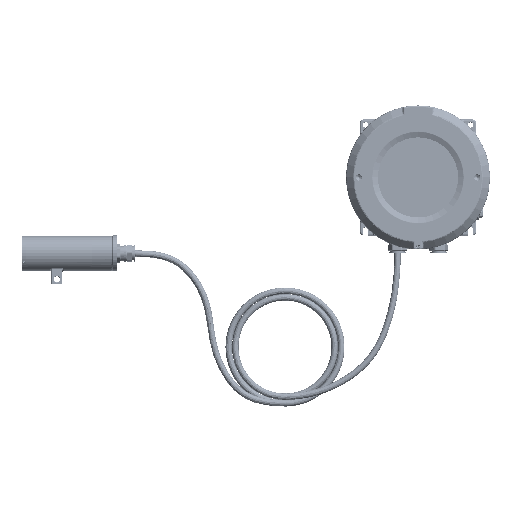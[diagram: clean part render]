
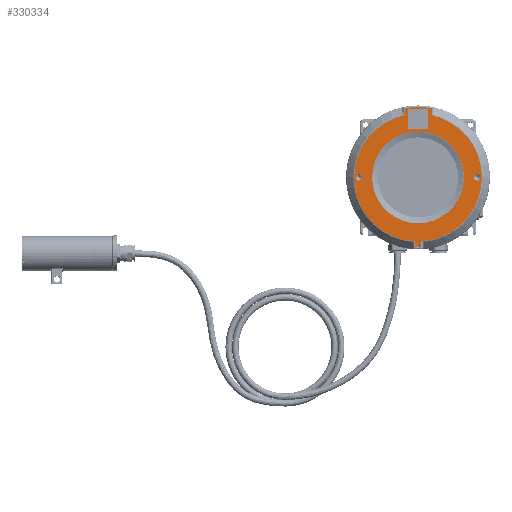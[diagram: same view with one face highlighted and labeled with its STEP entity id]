
A CAD part, front view. The second image highlights one B-rep face of the part: STEP entity #330334.
In plain terms, the highlighted planar face has unit normal (0, -1, 0) as drawn and (-1, 0, 0) by its records, which use the part's own axes.
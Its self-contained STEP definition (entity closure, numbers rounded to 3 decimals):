
#3358=FACE_BOUND('',#56930,.T.);
#3359=FACE_BOUND('',#56931,.T.);
#3360=FACE_BOUND('',#56932,.T.);
#3361=FACE_BOUND('',#56933,.T.);
#16100=PLANE('',#351888);
#28770=CIRCLE('',#351889,94.);
#28771=CIRCLE('',#351890,2.6);
#28772=CIRCLE('',#351891,94.);
#28773=CIRCLE('',#351892,85.172);
#28774=CIRCLE('',#351893,94.);
#28775=CIRCLE('',#351894,85.172);
#28776=CIRCLE('',#351895,61.314);
#28777=CIRCLE('',#351896,61.314);
#28778=CIRCLE('',#351897,4.15);
#28779=CIRCLE('',#351898,4.15);
#28780=CIRCLE('',#351899,4.15);
#28781=CIRCLE('',#351900,4.15);
#38158=FACE_OUTER_BOUND('',#56929,.T.);
#56929=EDGE_LOOP('',(#243626,#243627,#243628,#243629,#243630,#243631,#243632,
#243633,#243634,#243635));
#56930=EDGE_LOOP('',(#243636,#243637));
#56931=EDGE_LOOP('',(#243638,#243639));
#56932=EDGE_LOOP('',(#243640,#243641));
#56933=EDGE_LOOP('',(#243642,#243643,#243644,#243645));
#77508=LINE('',#518394,#113545);
#77509=LINE('',#518398,#113546);
#77512=LINE('',#518406,#113549);
#77514=LINE('',#518410,#113551);
#77520=LINE('',#518430,#113557);
#77521=LINE('',#518434,#113558);
#77522=LINE('',#518438,#113559);
#77523=LINE('',#518441,#113560);
#113545=VECTOR('',#385768,10.);
#113546=VECTOR('',#385773,10.);
#113549=VECTOR('',#385780,10.);
#113551=VECTOR('',#385786,10.);
#113557=VECTOR('',#385804,8.84);
#113558=VECTOR('',#385807,9.013);
#113559=VECTOR('',#385810,9.013);
#113560=VECTOR('',#385813,8.84);
#150876=VERTEX_POINT('',#518391);
#150877=VERTEX_POINT('',#518393);
#150878=VERTEX_POINT('',#518397);
#150881=VERTEX_POINT('',#518405);
#150885=VERTEX_POINT('',#518422);
#150886=VERTEX_POINT('',#518423);
#150887=VERTEX_POINT('',#518425);
#150888=VERTEX_POINT('',#518427);
#150889=VERTEX_POINT('',#518429);
#150890=VERTEX_POINT('',#518431);
#150891=VERTEX_POINT('',#518433);
#150892=VERTEX_POINT('',#518435);
#150893=VERTEX_POINT('',#518437);
#150894=VERTEX_POINT('',#518439);
#150895=VERTEX_POINT('',#518442);
#150896=VERTEX_POINT('',#518443);
#150897=VERTEX_POINT('',#518446);
#150898=VERTEX_POINT('',#518447);
#150899=VERTEX_POINT('',#518450);
#150900=VERTEX_POINT('',#518451);
#185693=EDGE_CURVE('',#150876,#150877,#77508,.T.);
#185695=EDGE_CURVE('',#150877,#150878,#77509,.T.);
#185699=EDGE_CURVE('',#150878,#150881,#77512,.T.);
#185702=EDGE_CURVE('',#150881,#150876,#77514,.T.);
#185708=EDGE_CURVE('',#150885,#150886,#28770,.T.);
#185709=EDGE_CURVE('',#150886,#150887,#28771,.T.);
#185710=EDGE_CURVE('',#150887,#150888,#28772,.T.);
#185711=EDGE_CURVE('',#150888,#150889,#77520,.T.);
#185712=EDGE_CURVE('',#150889,#150890,#28773,.T.);
#185713=EDGE_CURVE('',#150890,#150891,#77521,.T.);
#185714=EDGE_CURVE('',#150891,#150892,#28774,.T.);
#185715=EDGE_CURVE('',#150892,#150893,#77522,.T.);
#185716=EDGE_CURVE('',#150893,#150894,#28775,.T.);
#185717=EDGE_CURVE('',#150894,#150885,#77523,.T.);
#185718=EDGE_CURVE('',#150895,#150896,#28776,.T.);
#185719=EDGE_CURVE('',#150896,#150895,#28777,.T.);
#185720=EDGE_CURVE('',#150897,#150898,#28778,.T.);
#185721=EDGE_CURVE('',#150898,#150897,#28779,.T.);
#185722=EDGE_CURVE('',#150899,#150900,#28780,.T.);
#185723=EDGE_CURVE('',#150900,#150899,#28781,.T.);
#243626=ORIENTED_EDGE('',*,*,#185708,.T.);
#243627=ORIENTED_EDGE('',*,*,#185709,.T.);
#243628=ORIENTED_EDGE('',*,*,#185710,.T.);
#243629=ORIENTED_EDGE('',*,*,#185711,.T.);
#243630=ORIENTED_EDGE('',*,*,#185712,.T.);
#243631=ORIENTED_EDGE('',*,*,#185713,.T.);
#243632=ORIENTED_EDGE('',*,*,#185714,.T.);
#243633=ORIENTED_EDGE('',*,*,#185715,.T.);
#243634=ORIENTED_EDGE('',*,*,#185716,.T.);
#243635=ORIENTED_EDGE('',*,*,#185717,.T.);
#243636=ORIENTED_EDGE('',*,*,#185718,.T.);
#243637=ORIENTED_EDGE('',*,*,#185719,.T.);
#243638=ORIENTED_EDGE('',*,*,#185720,.T.);
#243639=ORIENTED_EDGE('',*,*,#185721,.T.);
#243640=ORIENTED_EDGE('',*,*,#185722,.T.);
#243641=ORIENTED_EDGE('',*,*,#185723,.T.);
#243642=ORIENTED_EDGE('',*,*,#185693,.F.);
#243643=ORIENTED_EDGE('',*,*,#185702,.F.);
#243644=ORIENTED_EDGE('',*,*,#185699,.F.);
#243645=ORIENTED_EDGE('',*,*,#185695,.F.);
#330334=ADVANCED_FACE('',(#38158,#3358,#3359,#3360,#3361),#16100,.F.);
#351888=AXIS2_PLACEMENT_3D('',#518421,#385796,#385797);
#351889=AXIS2_PLACEMENT_3D('',#518424,#385798,#385799);
#351890=AXIS2_PLACEMENT_3D('',#518426,#385800,#385801);
#351891=AXIS2_PLACEMENT_3D('',#518428,#385802,#385803);
#351892=AXIS2_PLACEMENT_3D('',#518432,#385805,#385806);
#351893=AXIS2_PLACEMENT_3D('',#518436,#385808,#385809);
#351894=AXIS2_PLACEMENT_3D('',#518440,#385811,#385812);
#351895=AXIS2_PLACEMENT_3D('',#518444,#385814,#385815);
#351896=AXIS2_PLACEMENT_3D('',#518445,#385816,#385817);
#351897=AXIS2_PLACEMENT_3D('',#518448,#385818,#385819);
#351898=AXIS2_PLACEMENT_3D('',#518449,#385820,#385821);
#351899=AXIS2_PLACEMENT_3D('',#518452,#385822,#385823);
#351900=AXIS2_PLACEMENT_3D('',#518453,#385824,#385825);
#385768=DIRECTION('',(0.,1.,0.));
#385773=DIRECTION('',(0.,0.,-1.));
#385780=DIRECTION('',(0.,-1.,0.));
#385786=DIRECTION('',(0.,0.,1.));
#385796=DIRECTION('center_axis',(1.,0.,0.));
#385797=DIRECTION('ref_axis',(0.,0.,-1.));
#385798=DIRECTION('center_axis',(-1.,0.,0.));
#385799=DIRECTION('ref_axis',(0.,0.,-1.));
#385800=DIRECTION('center_axis',(1.,0.,0.));
#385801=DIRECTION('ref_axis',(0.,0.,-1.));
#385802=DIRECTION('center_axis',(-1.,0.,0.));
#385803=DIRECTION('ref_axis',(0.,0.,-1.));
#385804=DIRECTION('',(0.,1.,0.));
#385805=DIRECTION('center_axis',(-1.,0.,0.));
#385806=DIRECTION('ref_axis',(0.,0.,-1.));
#385807=DIRECTION('',(0.,1.,0.));
#385808=DIRECTION('center_axis',(-1.,0.,0.));
#385809=DIRECTION('ref_axis',(0.,0.,-1.));
#385810=DIRECTION('',(0.,-1.,0.));
#385811=DIRECTION('center_axis',(-1.,0.,0.));
#385812=DIRECTION('ref_axis',(0.,0.,-1.));
#385813=DIRECTION('',(0.,-1.,0.));
#385814=DIRECTION('center_axis',(1.,0.,0.));
#385815=DIRECTION('ref_axis',(0.,0.,-1.));
#385816=DIRECTION('center_axis',(1.,0.,0.));
#385817=DIRECTION('ref_axis',(0.,0.,-1.));
#385818=DIRECTION('center_axis',(1.,0.,0.));
#385819=DIRECTION('ref_axis',(0.,0.,-1.));
#385820=DIRECTION('center_axis',(1.,0.,0.));
#385821=DIRECTION('ref_axis',(0.,0.,-1.));
#385822=DIRECTION('center_axis',(1.,0.,0.));
#385823=DIRECTION('ref_axis',(0.,0.,-1.));
#385824=DIRECTION('center_axis',(1.,0.,0.));
#385825=DIRECTION('ref_axis',(0.,0.,-1.));
#518391=CARTESIAN_POINT('',(0.,64.9,13.35));
#518393=CARTESIAN_POINT('',(0.,91.6,13.35));
#518394=CARTESIAN_POINT('',(0.,76.213,13.35));
#518397=CARTESIAN_POINT('',(0.,91.6,-13.35));
#518398=CARTESIAN_POINT('',(0.,91.6,-6.625));
#518405=CARTESIAN_POINT('',(0.,64.9,-13.35));
#518406=CARTESIAN_POINT('',(0.,76.213,-13.35));
#518410=CARTESIAN_POINT('',(0.,64.9,-6.625));
#518421=CARTESIAN_POINT('Origin',(0.,60.925,
0.));
#518422=CARTESIAN_POINT('',(0.,-93.892,-4.5));
#518423=CARTESIAN_POINT('',(0.,-93.985,-1.679));
#518424=CARTESIAN_POINT('Origin',(0.,0.,0.));
#518425=CARTESIAN_POINT('',(0.,-93.985,1.679));
#518426=CARTESIAN_POINT('Origin',(0.,-92.,0.));
#518427=CARTESIAN_POINT('',(0.,-93.892,4.5));
#518428=CARTESIAN_POINT('Origin',(0.,0.,0.));
#518429=CARTESIAN_POINT('',(0.,-85.053,4.5));
#518430=CARTESIAN_POINT('',(0.,-93.892,4.5));
#518431=CARTESIAN_POINT('',(0.,83.248,18.));
#518432=CARTESIAN_POINT('Origin',(0.,0.,0.));
#518433=CARTESIAN_POINT('',(0.,92.261,18.));
#518434=CARTESIAN_POINT('',(0.,83.248,18.));
#518435=CARTESIAN_POINT('',(0.,92.261,-18.));
#518436=CARTESIAN_POINT('Origin',(0.,0.,0.));
#518437=CARTESIAN_POINT('',(0.,83.248,-18.));
#518438=CARTESIAN_POINT('',(0.,92.261,-18.));
#518439=CARTESIAN_POINT('',(0.,-85.053,-4.5));
#518440=CARTESIAN_POINT('Origin',(0.,0.,0.));
#518441=CARTESIAN_POINT('',(0.,-85.053,-4.5));
#518442=CARTESIAN_POINT('',(0.,0.,-61.314));
#518443=CARTESIAN_POINT('',(0.,0.,
61.314));
#518444=CARTESIAN_POINT('Origin',(0.,0.,0.));
#518445=CARTESIAN_POINT('Origin',(0.,0.,0.));
#518446=CARTESIAN_POINT('',(0.,0.,83.15));
#518447=CARTESIAN_POINT('',(0.,0.,
74.85));
#518448=CARTESIAN_POINT('Origin',(0.,0.,79.));
#518449=CARTESIAN_POINT('Origin',(0.,0.,79.));
#518450=CARTESIAN_POINT('',(0.,0.,-74.85));
#518451=CARTESIAN_POINT('',(0.,0.,
-83.15));
#518452=CARTESIAN_POINT('Origin',(0.,0.,-79.));
#518453=CARTESIAN_POINT('Origin',(0.,0.,-79.));
